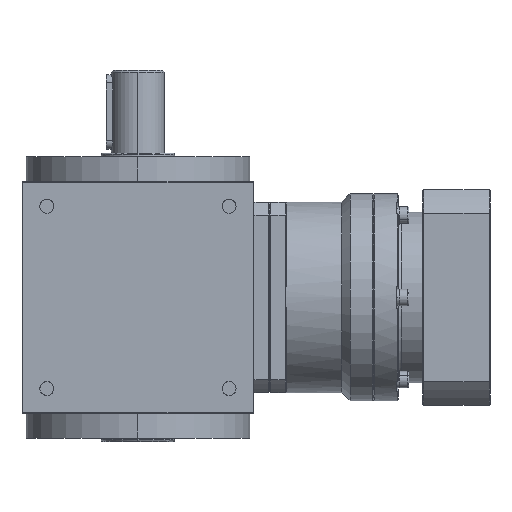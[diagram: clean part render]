
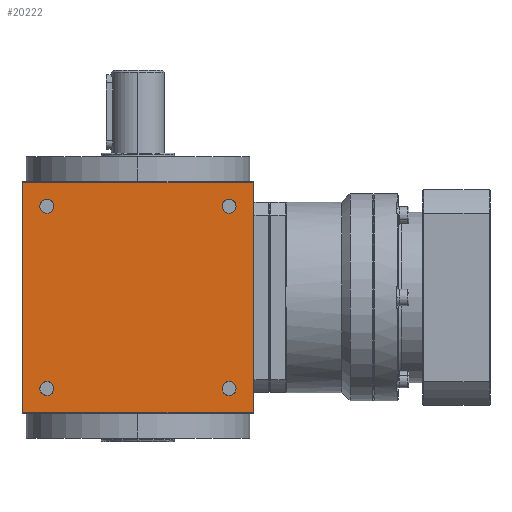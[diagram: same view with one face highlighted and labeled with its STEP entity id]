
A CAD part, left-side view. The second image highlights one B-rep face of the part: STEP entity #20222.
In plain terms, the highlighted planar face has unit normal (-1, 0, 0).
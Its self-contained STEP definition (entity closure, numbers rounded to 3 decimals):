
#173 = FACE_OUTER_BOUND ( 'NONE', #34910, .T. ) ;
#250 = AXIS2_PLACEMENT_3D ( 'NONE', #6091, #38010, #9957 ) ;
#573 = CARTESIAN_POINT ( 'NONE',  ( -70., -69.5, -69.5 ) ) ;
#582 = FACE_BOUND ( 'NONE', #607, .T. ) ;
#607 = EDGE_LOOP ( 'NONE', ( #2486, #3122 ) ) ;
#1658 = AXIS2_PLACEMENT_3D ( 'NONE', #25497, #21668, #31851 ) ;
#1753 = EDGE_LOOP ( 'NONE', ( #18267, #28619 ) ) ;
#1860 = DIRECTION ( 'NONE',  ( 0., 0., 1. ) ) ;
#2207 = DIRECTION ( 'NONE',  ( 0., 0., -1. ) ) ;
#2486 = ORIENTED_EDGE ( 'NONE', *, *, #23682, .T. ) ;
#2699 = DIRECTION ( 'NONE',  ( 0., 1., 0. ) ) ;
#2753 = CARTESIAN_POINT ( 'NONE',  ( -70., 55., -55. ) ) ;
#2981 = AXIS2_PLACEMENT_3D ( 'NONE', #39285, #32956, #1860 ) ;
#3122 = ORIENTED_EDGE ( 'NONE', *, *, #25102, .T. ) ;
#3478 = DIRECTION ( 'NONE',  ( 0., 0., 1. ) ) ;
#4327 = CIRCLE ( 'NONE', #29785, 4.2 ) ;
#4545 = DIRECTION ( 'NONE',  ( 1., 0., 0. ) ) ;
#4961 = VERTEX_POINT ( 'NONE', #34394 ) ;
#5211 = VERTEX_POINT ( 'NONE', #22824 ) ;
#5885 = FACE_BOUND ( 'NONE', #10723, .T. ) ;
#6091 = CARTESIAN_POINT ( 'NONE',  ( -70., 70., -70. ) ) ;
#6236 = CIRCLE ( 'NONE', #1658, 4.2 ) ;
#6917 = DIRECTION ( 'NONE',  ( 0., -1., 0. ) ) ;
#7027 = EDGE_CURVE ( 'NONE', #29686, #30796, #32894, .T. ) ;
#7341 = DIRECTION ( 'NONE',  ( 1., 0., 0. ) ) ;
#7915 = ORIENTED_EDGE ( 'NONE', *, *, #7027, .T. ) ;
#7936 = VECTOR ( 'NONE', #6917, 1000. ) ;
#8404 = EDGE_CURVE ( 'NONE', #4961, #30273, #17362, .T. ) ;
#9046 = ORIENTED_EDGE ( 'NONE', *, *, #13165, .T. ) ;
#9838 = ORIENTED_EDGE ( 'NONE', *, *, #34872, .T. ) ;
#9957 = DIRECTION ( 'NONE',  ( 0., 0., 1. ) ) ;
#10253 = CARTESIAN_POINT ( 'NONE',  ( -70., -55., -55. ) ) ;
#10608 = CARTESIAN_POINT ( 'NONE',  ( -70., 55., 59.2 ) ) ;
#10723 = EDGE_LOOP ( 'NONE', ( #12748, #9046 ) ) ;
#11257 = ORIENTED_EDGE ( 'NONE', *, *, #15484, .T. ) ;
#12135 = DIRECTION ( 'NONE',  ( 0., 0., 1. ) ) ;
#12614 = EDGE_LOOP ( 'NONE', ( #25600, #19966 ) ) ;
#12748 = ORIENTED_EDGE ( 'NONE', *, *, #23486, .T. ) ;
#13025 = FACE_BOUND ( 'NONE', #12614, .T. ) ;
#13165 = EDGE_CURVE ( 'NONE', #5211, #32848, #29165, .T. ) ;
#13443 = CIRCLE ( 'NONE', #40226, 4.2 ) ;
#14279 = CARTESIAN_POINT ( 'NONE',  ( -70., -69.5, -70. ) ) ;
#14664 = DIRECTION ( 'NONE',  ( 0., 0., 1. ) ) ;
#14778 = AXIS2_PLACEMENT_3D ( 'NONE', #2753, #15218, #12135 ) ;
#15218 = DIRECTION ( 'NONE',  ( 1., 0., 0. ) ) ;
#15484 = EDGE_CURVE ( 'NONE', #15814, #29686, #27989, .T. ) ;
#15814 = VERTEX_POINT ( 'NONE', #31427 ) ;
#16588 = VECTOR ( 'NONE', #2699, 1000. ) ;
#17029 = CARTESIAN_POINT ( 'NONE',  ( -70., 55., 55. ) ) ;
#17362 = CIRCLE ( 'NONE', #28449, 4.2 ) ;
#17709 = CARTESIAN_POINT ( 'NONE',  ( -70., 69.5, 69.5 ) ) ;
#17999 = CIRCLE ( 'NONE', #2981, 4.2 ) ;
#18267 = ORIENTED_EDGE ( 'NONE', *, *, #24880, .T. ) ;
#18349 = DIRECTION ( 'NONE',  ( 0., 0., 1. ) ) ;
#18404 = DIRECTION ( 'NONE',  ( 1., 0., 0. ) ) ;
#18535 = CARTESIAN_POINT ( 'NONE',  ( -70., 55., -50.8 ) ) ;
#19615 = CARTESIAN_POINT ( 'NONE',  ( -70., -55., -55. ) ) ;
#19966 = ORIENTED_EDGE ( 'NONE', *, *, #36600, .T. ) ;
#19995 = VERTEX_POINT ( 'NONE', #10608 ) ;
#20222 = ADVANCED_FACE ( 'NONE', ( #173, #582, #5885, #25511, #13025 ), #21633, .T. ) ;
#20453 = VERTEX_POINT ( 'NONE', #20968 ) ;
#20968 = CARTESIAN_POINT ( 'NONE',  ( -70., 55., 50.8 ) ) ;
#20990 = DIRECTION ( 'NONE',  ( 1., 0., 0. ) ) ;
#21150 = ORIENTED_EDGE ( 'NONE', *, *, #22467, .T. ) ;
#21633 = PLANE ( 'NONE',  #250 ) ;
#21668 = DIRECTION ( 'NONE',  ( 1., 0., 0. ) ) ;
#21678 = CARTESIAN_POINT ( 'NONE',  ( -70., -55., -50.8 ) ) ;
#22467 = EDGE_CURVE ( 'NONE', #23911, #15814, #38846, .T. ) ;
#22536 = DIRECTION ( 'NONE',  ( 1., 0., 0. ) ) ;
#22685 = VECTOR ( 'NONE', #14664, 1000. ) ;
#22824 = CARTESIAN_POINT ( 'NONE',  ( -70., 55., -59.2 ) ) ;
#23486 = EDGE_CURVE ( 'NONE', #32848, #5211, #17999, .T. ) ;
#23682 = EDGE_CURVE ( 'NONE', #38140, #38795, #6236, .T. ) ;
#23784 = VECTOR ( 'NONE', #2207, 1000. ) ;
#23911 = VERTEX_POINT ( 'NONE', #17709 ) ;
#24880 = EDGE_CURVE ( 'NONE', #30273, #4961, #13443, .T. ) ;
#24929 = CARTESIAN_POINT ( 'NONE',  ( -70., -55., 55. ) ) ;
#25102 = EDGE_CURVE ( 'NONE', #38795, #38140, #4327, .T. ) ;
#25497 = CARTESIAN_POINT ( 'NONE',  ( -70., -55., 55. ) ) ;
#25511 = FACE_BOUND ( 'NONE', #1753, .T. ) ;
#25600 = ORIENTED_EDGE ( 'NONE', *, *, #35727, .T. ) ;
#27067 = AXIS2_PLACEMENT_3D ( 'NONE', #30033, #20990, #18349 ) ;
#27233 = CARTESIAN_POINT ( 'NONE',  ( -70., 70., 69.5 ) ) ;
#27989 = LINE ( 'NONE', #38431, #7936 ) ;
#28413 = DIRECTION ( 'NONE',  ( 0., 0., 1. ) ) ;
#28449 = AXIS2_PLACEMENT_3D ( 'NONE', #19615, #7341, #28413 ) ;
#28619 = ORIENTED_EDGE ( 'NONE', *, *, #8404, .T. ) ;
#29165 = CIRCLE ( 'NONE', #14778, 4.2 ) ;
#29306 = DIRECTION ( 'NONE',  ( 0., 0., 1. ) ) ;
#29686 = VERTEX_POINT ( 'NONE', #573 ) ;
#29785 = AXIS2_PLACEMENT_3D ( 'NONE', #24929, #18404, #3478 ) ;
#30033 = CARTESIAN_POINT ( 'NONE',  ( -70., 55., 55. ) ) ;
#30063 = CARTESIAN_POINT ( 'NONE',  ( -70., -55., 59.2 ) ) ;
#30273 = VERTEX_POINT ( 'NONE', #21678 ) ;
#30720 = LINE ( 'NONE', #27233, #16588 ) ;
#30796 = VERTEX_POINT ( 'NONE', #30854 ) ;
#30854 = CARTESIAN_POINT ( 'NONE',  ( -70., -69.5, 69.5 ) ) ;
#31427 = CARTESIAN_POINT ( 'NONE',  ( -70., 69.5, -69.5 ) ) ;
#31851 = DIRECTION ( 'NONE',  ( 0., 0., 1. ) ) ;
#32824 = CARTESIAN_POINT ( 'NONE',  ( -70., -55., 50.8 ) ) ;
#32848 = VERTEX_POINT ( 'NONE', #18535 ) ;
#32894 = LINE ( 'NONE', #14279, #22685 ) ;
#32956 = DIRECTION ( 'NONE',  ( 1., 0., 0. ) ) ;
#34394 = CARTESIAN_POINT ( 'NONE',  ( -70., -55., -59.2 ) ) ;
#34872 = EDGE_CURVE ( 'NONE', #30796, #23911, #30720, .T. ) ;
#34910 = EDGE_LOOP ( 'NONE', ( #7915, #9838, #21150, #11257 ) ) ;
#35688 = AXIS2_PLACEMENT_3D ( 'NONE', #17029, #4545, #29306 ) ;
#35727 = EDGE_CURVE ( 'NONE', #19995, #20453, #39494, .T. ) ;
#36600 = EDGE_CURVE ( 'NONE', #20453, #19995, #37005, .T. ) ;
#37005 = CIRCLE ( 'NONE', #35688, 4.2 ) ;
#38010 = DIRECTION ( 'NONE',  ( -1., 0., 0. ) ) ;
#38140 = VERTEX_POINT ( 'NONE', #30063 ) ;
#38431 = CARTESIAN_POINT ( 'NONE',  ( -70., 70., -69.5 ) ) ;
#38504 = DIRECTION ( 'NONE',  ( 0., 0., 1. ) ) ;
#38795 = VERTEX_POINT ( 'NONE', #32824 ) ;
#38846 = LINE ( 'NONE', #39049, #23784 ) ;
#39049 = CARTESIAN_POINT ( 'NONE',  ( -70., 69.5, -70. ) ) ;
#39285 = CARTESIAN_POINT ( 'NONE',  ( -70., 55., -55. ) ) ;
#39494 = CIRCLE ( 'NONE', #27067, 4.2 ) ;
#40226 = AXIS2_PLACEMENT_3D ( 'NONE', #10253, #22536, #38504 ) ;
